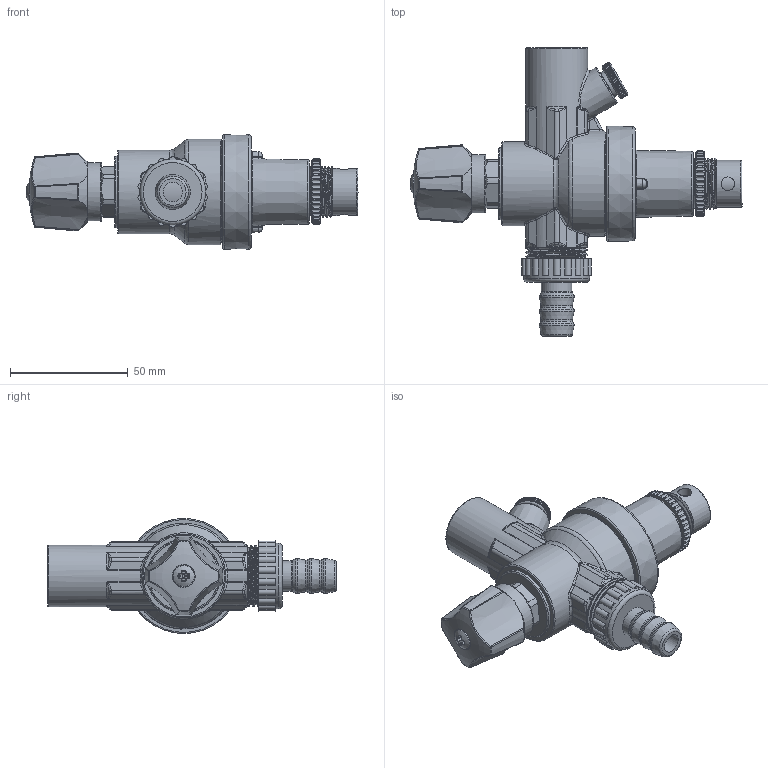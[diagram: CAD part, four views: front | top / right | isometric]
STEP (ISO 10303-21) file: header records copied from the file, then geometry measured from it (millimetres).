
FILE_DESCRIPTION(/* description */ (''),/* implementation_level */ '2;1');
FILE_NAME(/* name */ '42405',/* time_stamp */ '2022-03-29T17:56:58+02:00',/* author */ (''),/* organization */ (''),/* preprocessor_version */ 'ST-DEVELOPER v16.5',/* originating_system */ 'HiCAD 2021 2601.2 Build 407',/* authorisation */ '');
FILE_SCHEMA (('AUTOMOTIVE_DESIGN { 1 0 10303 214 1 1 1 1 }'));
Length unit declared in the file: millimetre
Products named in the file (5): Root; ComponenteFusion; Corpo1; Corpo3; Corpo4
Assembly tree (4 placements, depth 3):
  Root
    ComponenteFusion
      Corpo1
      Corpo3
      Corpo4
Bounding box: 141.2 x 122.8 x 48.98 mm (x, y, z)
Volume: 8347.3 mm3; surface area: 56378.2 mm2
Topology: 6 solids, 7 shells, 1276 faces, 3449 edges, 2177 vertices
Faces by surface type: cylinder 593, bspline 288, torus 157, plane 146, cone 46, sphere 46
Full cylindrical faces by diameter (mm): 3.553 x4, 4 x7, 4.408 x6, 5.8 x2, 6 x1, 6.42 x1, 6.9 x1, 8.246 x1, 8.7 x1, 9 x1, 9.2 x2, 9.338 x1, 10.5 x1, 10.78 x1, 11.866 x1, 12.18 x2, 13 x4, 13.6 x1, 16.6 x1, 17.4 x1, 17.8 x1, 18 x1, 18.901 x1, 19.1 x1, 20 x1, 20.137 x11, 20.526 x10, 20.955 x7, 21.85 x11, 22.203 x11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
Entity records: 86476 total; most frequent: CARTESIAN_POINT 60381, ORIENTED_EDGE 6628, DIRECTION 4563, EDGE_CURVE 3314, VERTEX_POINT 2163, AXIS2_PLACEMENT_3D 1968, EDGE_LOOP 1428, FACE_BOUND 1428
